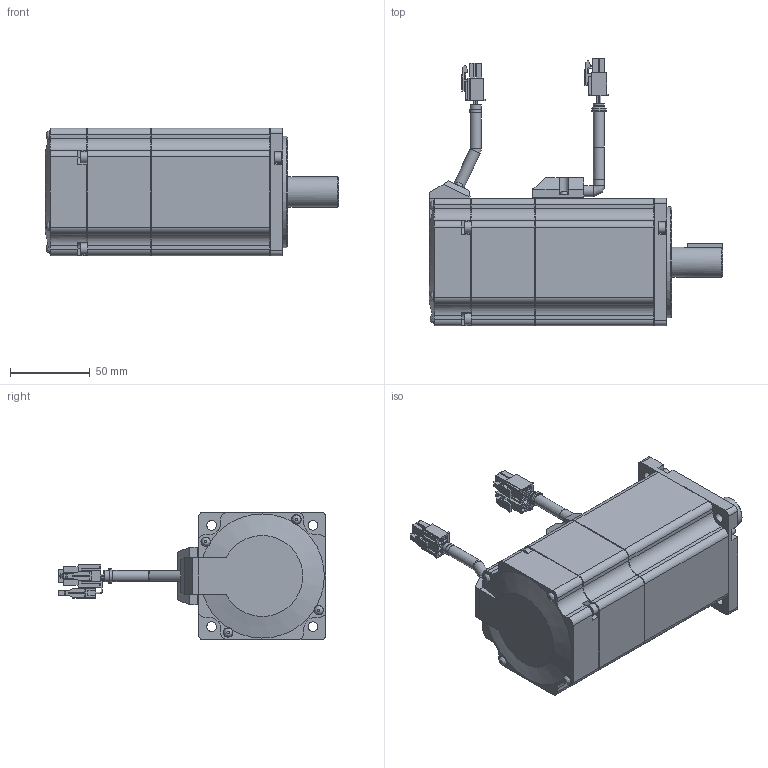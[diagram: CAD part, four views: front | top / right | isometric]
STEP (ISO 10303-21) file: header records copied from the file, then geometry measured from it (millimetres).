
FILE_DESCRIPTION( ( 'STEP AP203' ), '1' );
FILE_NAME( '//expscmdclustefs.cadenas.external/client_exchange/iodir/jobs/output/wkb71153943_no0/STEP/_MSMD082P1TA_2_03.stp', ' ', ( ' ' ), ( ' ' ), 'PSStep 15.0.47', 'PARTsolutions', ' ' );
FILE_SCHEMA( ( 'CONFIG_CONTROL_DESIGN' ) );
Length unit declared in the file: millimetre
Products named in the file (9):  MSMD082P1TA; HI_Motor--08-BPBB; HI_Motoplug--08B; HI_Brake--08P; HI_Motor Connector; HI_Brake Connector; HI_Encoder--08P; HI_Cabel  brake--08-P-6; HI_2500 p/r Connector
Assembly tree (8 placements, depth 2):
   MSMD082P1TA
    HI_Motor--08-BPBB
    HI_Motoplug--08B
    HI_Brake--08P
    HI_Motor Connector
    HI_Brake Connector
    HI_Encoder--08P
    HI_Cabel  brake--08-P-6
    HI_2500 p/r Connector
Bounding box: 184.2 x 168.3 x 80 mm (x, y, z)
Volume: 883038.4 mm3; surface area: 80556 mm2
Topology: 8 solids, 8 shells, 802 faces, 2059 edges, 1347 vertices
Faces by surface type: plane 588, cylinder 180, cone 17, torus 9, bspline 8
Full cylindrical faces by diameter (mm): 1 x14, 1.82 x4, 2.459 x1, 2.6 x12, 4.134 x1, 4.5 x4, 6 x8, 7 x15, 7.2 x1, 9 x1, 19 x1, 19.5 x1, 22.5 x1, 38.5 x1, 70 x1
Entity records: 24027 total; most frequent: CARTESIAN_POINT 4460, DIRECTION 3933, ORIENTED_EDGE 3872, EDGE_CURVE 1936, LINE 1503, VECTOR 1503, VERTEX_POINT 1322, AXIS2_PLACEMENT_3D 1215
